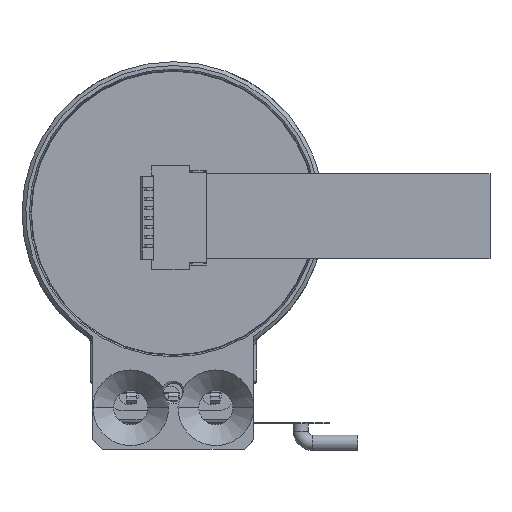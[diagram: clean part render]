
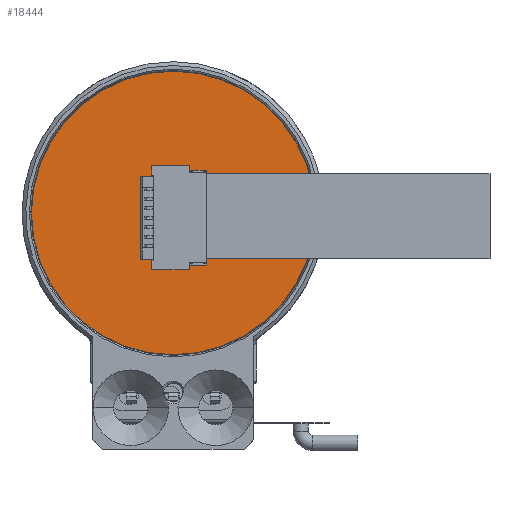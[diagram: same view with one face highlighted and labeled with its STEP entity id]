
A CAD part, front view. The second image highlights one B-rep face of the part: STEP entity #18444.
In plain terms, the highlighted planar face has unit normal (0, -1, 0) as drawn and (0, 0, 1) by its records, which use the part's own axes.
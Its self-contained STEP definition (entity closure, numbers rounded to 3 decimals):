
#18345=CARTESIAN_POINT('',(0.,0.,1.2));
#18346=DIRECTION('',(0.,0.,-1.));
#18347=DIRECTION('',(0.,1.,0.));
#18348=AXIS2_PLACEMENT_3D('',#18345,#18346,#18347);
#18350=CARTESIAN_POINT('',(0.,0.,1.2));
#18351=DIRECTION('',(0.,0.,-1.));
#18352=DIRECTION('',(0.,-1.,0.));
#18353=AXIS2_PLACEMENT_3D('',#18350,#18351,#18352);
#18381=CARTESIAN_POINT('',(0.,-7.5,1.2));
#18382=VERTEX_POINT('',#18381);
#18383=CARTESIAN_POINT('',(0.,7.5,1.2));
#18384=VERTEX_POINT('',#18383);
#18435=CARTESIAN_POINT('',(0.,0.,1.2));
#18436=DIRECTION('',(0.,0.,1.));
#18437=DIRECTION('',(0.,-1.,0.));
#18438=AXIS2_PLACEMENT_3D('',#18435,#18436,#18437);
#18439=PLANE('',#18438);
#18440=ORIENTED_EDGE('',*,*,#18415,.T.);
#18441=ORIENTED_EDGE('',*,*,#18429,.T.);
#18442=EDGE_LOOP('',(#18440,#18441));
#18443=FACE_OUTER_BOUND('',#18442,.F.);
#18444=ADVANCED_FACE('',(#18443),#18439,.T.);
#18349=CIRCLE('',#18348,7.5);
#18354=CIRCLE('',#18353,7.5);
#18415=EDGE_CURVE('',#18384,#18382,#18349,.T.);
#18429=EDGE_CURVE('',#18382,#18384,#18354,.T.);
